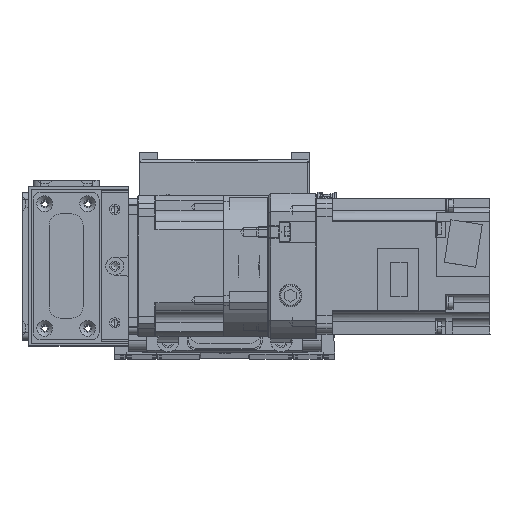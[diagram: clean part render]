
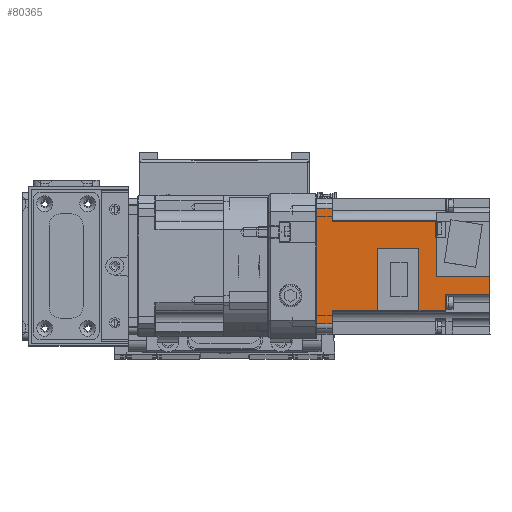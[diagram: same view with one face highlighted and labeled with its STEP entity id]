
A CAD part, top view. The second image highlights one B-rep face of the part: STEP entity #80365.
In plain terms, the highlighted planar face has unit normal (0, 0, 1) as drawn and (0, -1, 0) by its records, which use the part's own axes.
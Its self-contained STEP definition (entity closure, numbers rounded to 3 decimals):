
#5855=FACE_OUTER_BOUND('',#10609,.T.);
#10609=EDGE_LOOP('',(#66086,#66087,#66088,#66089,#66090,#66091,#66092,#66093,
#66094,#66095,#66096,#66097,#66098,#66099,#66100,#66101,#66102,#66103,#66104,
#66105));
#19353=LINE('',#130901,#28109);
#19383=LINE('',#131007,#28139);
#19386=LINE('',#131019,#28142);
#19428=LINE('',#131149,#28184);
#19489=LINE('',#131361,#28245);
#19490=LINE('',#131366,#28246);
#19491=LINE('',#131368,#28247);
#19492=LINE('',#131369,#28248);
#19493=LINE('',#131371,#28249);
#19494=LINE('',#131373,#28250);
#19495=LINE('',#131375,#28251);
#19496=LINE('',#131377,#28252);
#19497=LINE('',#131379,#28253);
#19498=LINE('',#131381,#28254);
#19499=LINE('',#131383,#28255);
#19500=LINE('',#131385,#28256);
#19501=LINE('',#131386,#28257);
#19502=LINE('',#131388,#28258);
#19503=LINE('',#131390,#28259);
#19504=LINE('',#131391,#28260);
#28109=VECTOR('',#103751,51.);
#28139=VECTOR('',#103839,3.41);
#28142=VECTOR('',#103848,2.444);
#28184=VECTOR('',#103968,7.8);
#28245=VECTOR('',#104205,5.941);
#28246=VECTOR('',#104212,7.);
#28247=VECTOR('',#104215,0.905);
#28248=VECTOR('',#104216,45.6);
#28249=VECTOR('',#104217,7.);
#28250=VECTOR('',#104218,5.941);
#28251=VECTOR('',#104219,19.9);
#28252=VECTOR('',#104220,27.559);
#28253=VECTOR('',#104221,18.35);
#28254=VECTOR('',#104222,27.559);
#28255=VECTOR('',#104223,11.85);
#28256=VECTOR('',#104224,7.059);
#28257=VECTOR('',#104225,19.5);
#28258=VECTOR('',#104226,23.5);
#28259=VECTOR('',#104227,17.5);
#28260=VECTOR('',#104228,0.5);
#36854=VERTEX_POINT('',#130898);
#36855=VERTEX_POINT('',#130900);
#36900=VERTEX_POINT('',#131003);
#36902=VERTEX_POINT('',#131006);
#36907=VERTEX_POINT('',#131016);
#36908=VERTEX_POINT('',#131018);
#36956=VERTEX_POINT('',#131146);
#36957=VERTEX_POINT('',#131148);
#37019=VERTEX_POINT('',#131358);
#37020=VERTEX_POINT('',#131360);
#37022=VERTEX_POINT('',#131370);
#37023=VERTEX_POINT('',#131372);
#37024=VERTEX_POINT('',#131374);
#37025=VERTEX_POINT('',#131376);
#37026=VERTEX_POINT('',#131378);
#37027=VERTEX_POINT('',#131380);
#37028=VERTEX_POINT('',#131382);
#37029=VERTEX_POINT('',#131384);
#37030=VERTEX_POINT('',#131387);
#37031=VERTEX_POINT('',#131389);
#46961=EDGE_CURVE('',#36854,#36855,#19353,.T.);
#47013=EDGE_CURVE('',#36900,#36902,#19383,.T.);
#47019=EDGE_CURVE('',#36907,#36908,#19386,.T.);
#47084=EDGE_CURVE('',#36956,#36957,#19428,.T.);
#47189=EDGE_CURVE('',#37020,#37019,#19489,.T.);
#47192=EDGE_CURVE('',#37019,#36855,#19490,.T.);
#47193=EDGE_CURVE('',#36908,#36900,#19491,.T.);
#47194=EDGE_CURVE('',#37020,#36907,#19492,.T.);
#47195=EDGE_CURVE('',#37022,#36854,#19493,.T.);
#47196=EDGE_CURVE('',#37022,#37023,#19494,.T.);
#47197=EDGE_CURVE('',#37023,#37024,#19495,.T.);
#47198=EDGE_CURVE('',#37024,#37025,#19496,.T.);
#47199=EDGE_CURVE('',#37025,#37026,#19497,.T.);
#47200=EDGE_CURVE('',#37026,#37027,#19498,.T.);
#47201=EDGE_CURVE('',#37028,#37027,#19499,.T.);
#47202=EDGE_CURVE('',#37029,#37028,#19500,.T.);
#47203=EDGE_CURVE('',#36957,#37029,#19501,.T.);
#47204=EDGE_CURVE('',#36956,#37030,#19502,.T.);
#47205=EDGE_CURVE('',#37031,#37030,#19503,.T.);
#47206=EDGE_CURVE('',#36902,#37031,#19504,.T.);
#66086=ORIENTED_EDGE('',*,*,#47193,.F.);
#66087=ORIENTED_EDGE('',*,*,#47019,.F.);
#66088=ORIENTED_EDGE('',*,*,#47194,.F.);
#66089=ORIENTED_EDGE('',*,*,#47189,.T.);
#66090=ORIENTED_EDGE('',*,*,#47192,.T.);
#66091=ORIENTED_EDGE('',*,*,#46961,.F.);
#66092=ORIENTED_EDGE('',*,*,#47195,.F.);
#66093=ORIENTED_EDGE('',*,*,#47196,.T.);
#66094=ORIENTED_EDGE('',*,*,#47197,.T.);
#66095=ORIENTED_EDGE('',*,*,#47198,.T.);
#66096=ORIENTED_EDGE('',*,*,#47199,.T.);
#66097=ORIENTED_EDGE('',*,*,#47200,.T.);
#66098=ORIENTED_EDGE('',*,*,#47201,.F.);
#66099=ORIENTED_EDGE('',*,*,#47202,.F.);
#66100=ORIENTED_EDGE('',*,*,#47203,.F.);
#66101=ORIENTED_EDGE('',*,*,#47084,.F.);
#66102=ORIENTED_EDGE('',*,*,#47204,.T.);
#66103=ORIENTED_EDGE('',*,*,#47205,.F.);
#66104=ORIENTED_EDGE('',*,*,#47206,.F.);
#66105=ORIENTED_EDGE('',*,*,#47013,.F.);
#76327=PLANE('',#87615);
#80365=ADVANCED_FACE('',(#5855),#76327,.F.);
#87615=AXIS2_PLACEMENT_3D('',#131367,#104213,#104214);
#103751=DIRECTION('',(1.,0.,0.));
#103839=DIRECTION('',(-1.,0.,0.));
#103848=DIRECTION('',(-1.,0.,0.));
#103968=DIRECTION('',(-1.,0.,0.));
#104205=DIRECTION('',(1.,0.,0.));
#104212=DIRECTION('',(0.,0.,1.));
#104213=DIRECTION('center_axis',(0.,1.,0.));
#104214=DIRECTION('ref_axis',(-1.,0.,0.));
#104215=DIRECTION('',(-1.,0.,0.));
#104216=DIRECTION('',(0.,0.,-1.));
#104217=DIRECTION('',(0.,0.,1.));
#104218=DIRECTION('',(1.,0.,0.));
#104219=DIRECTION('',(0.,0.,-1.));
#104220=DIRECTION('',(1.,0.,0.));
#104221=DIRECTION('',(0.,0.,-1.));
#104222=DIRECTION('',(-1.,0.,0.));
#104223=DIRECTION('',(0.,0.,1.));
#104224=DIRECTION('',(-1.,0.,0.));
#104225=DIRECTION('',(0.,0.,1.));
#104226=DIRECTION('',(0.,0.,1.));
#104227=DIRECTION('',(-1.,0.,0.));
#104228=DIRECTION('',(0.,0.,-1.));
#130898=CARTESIAN_POINT('',(-25.5,-30.,0.));
#130900=CARTESIAN_POINT('',(25.5,-30.,0.));
#130901=CARTESIAN_POINT('',(-25.5,-30.,0.));
#131003=CARTESIAN_POINT('',(16.21,-30.,-52.6));
#131006=CARTESIAN_POINT('',(12.8,-30.,-52.6));
#131007=CARTESIAN_POINT('',(16.21,-30.,-52.6));
#131016=CARTESIAN_POINT('',(19.559,-30.,-52.6));
#131018=CARTESIAN_POINT('',(17.115,-30.,-52.6));
#131019=CARTESIAN_POINT('',(19.559,-30.,-52.6));
#131146=CARTESIAN_POINT('',(-4.7,-30.,-76.6));
#131148=CARTESIAN_POINT('',(-12.5,-30.,-76.6));
#131149=CARTESIAN_POINT('',(-4.7,-30.,-76.6));
#131358=CARTESIAN_POINT('',(25.5,-30.,-7.));
#131360=CARTESIAN_POINT('',(19.559,-30.,-7.));
#131361=CARTESIAN_POINT('',(19.559,-30.,-7.));
#131366=CARTESIAN_POINT('',(25.5,-30.,-7.));
#131367=CARTESIAN_POINT('Origin',(0.,-30.,-3.9));
#131368=CARTESIAN_POINT('',(17.115,-30.,-52.6));
#131369=CARTESIAN_POINT('',(19.559,-30.,-7.));
#131370=CARTESIAN_POINT('',(-25.5,-30.,-7.));
#131371=CARTESIAN_POINT('',(-25.5,-30.,-7.));
#131372=CARTESIAN_POINT('',(-19.559,-30.,-7.));
#131373=CARTESIAN_POINT('',(-25.5,-30.,-7.));
#131374=CARTESIAN_POINT('',(-19.559,-30.,-26.9));
#131375=CARTESIAN_POINT('',(-19.559,-30.,-7.));
#131376=CARTESIAN_POINT('',(8.,-30.,-26.9));
#131377=CARTESIAN_POINT('',(-19.559,-30.,-26.9));
#131378=CARTESIAN_POINT('',(8.,-30.,-45.25));
#131379=CARTESIAN_POINT('',(8.,-30.,-26.9));
#131380=CARTESIAN_POINT('',(-19.559,-30.,-45.25));
#131381=CARTESIAN_POINT('',(8.,-30.,-45.25));
#131382=CARTESIAN_POINT('',(-19.559,-30.,-57.1));
#131383=CARTESIAN_POINT('',(-19.559,-30.,-57.1));
#131384=CARTESIAN_POINT('',(-12.5,-30.,-57.1));
#131385=CARTESIAN_POINT('',(-12.5,-30.,-57.1));
#131386=CARTESIAN_POINT('',(-12.5,-30.,-76.6));
#131387=CARTESIAN_POINT('',(-4.7,-30.,-53.1));
#131388=CARTESIAN_POINT('',(-4.7,-30.,-76.6));
#131389=CARTESIAN_POINT('',(12.8,-30.,-53.1));
#131390=CARTESIAN_POINT('',(12.8,-30.,-53.1));
#131391=CARTESIAN_POINT('',(12.8,-30.,-52.6));
